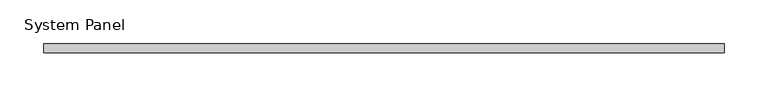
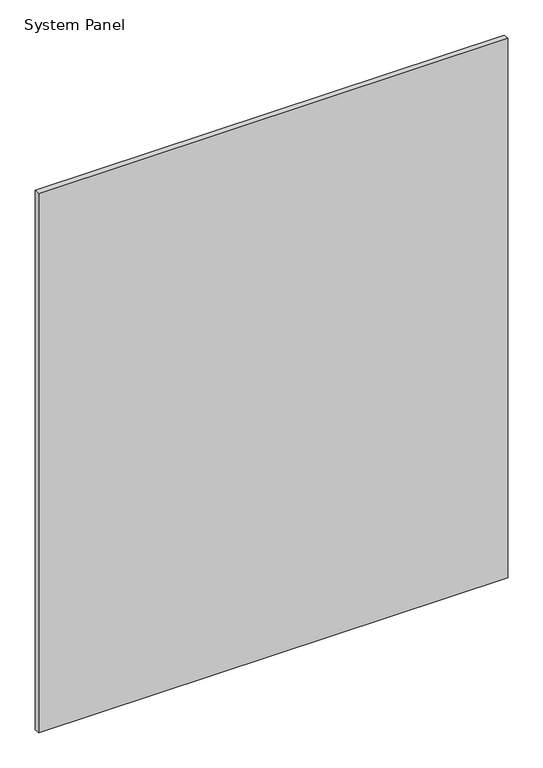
"""IFC4 building model written with IfcOpenShell, lengths in millimetres: plate geometry, System Panel : MALLA ACMA."""

import ifcopenshell
import ifcopenshell.guid

model = None  # the IFC model being written
_history = None  # IfcOwnerHistory: only IFC2X3 demands one
_inside = {}  # id of a spatial element -> (the spatial element, [elements in it])
_under = {}  # id of a project, library or spatial element -> (it, [spatial elements below it])
_declared = {}  # id of a project -> (the project, [libraries it declares])
_typed = {}  # id of a type object -> (the type object, [elements of that type])
_made_of = {}  # id of a material, layer set ... -> (it, [elements and type objects made of it])


def new_model(schema):
    """Start an empty IFC model of exactly this schema.

    Asked for "IFC4X3", IfcOpenShell would pick the latest addendum, in which some entities
    have other attributes; the version numbers below select the first issue.
    IFC2X3 requires an IfcOwnerHistory on every rooted entity: one is made here for all.
    """
    global model, _history
    if schema == "IFC4X3":
        model = ifcopenshell.file(schema_version=(4, 3, 0, 0))
    else:
        model = ifcopenshell.file(schema=schema)
    _inside.clear()
    _under.clear()
    _declared.clear()
    _typed.clear()
    _made_of.clear()
    _history = None
    if model.schema == "IFC2X3":
        org = make("IfcOrganization", Name="unknown")
        user = make(
            "IfcPersonAndOrganization",
            ThePerson=make("IfcPerson", FamilyName="unknown"),
            TheOrganization=org,
        )
        app = make(
            "IfcApplication",
            ApplicationDeveloper=org,
            Version="unknown",
            ApplicationFullName="unknown",
            ApplicationIdentifier="unknown",
        )
        _history = make(
            "IfcOwnerHistory",
            OwningUser=user,
            OwningApplication=app,
            ChangeAction="ADDED",
            CreationDate=0,
        )
    return model


def make(cls, **values):
    """One entity of the class cls with the attributes given. An attribute that is None is left unset."""
    return model.create_entity(
        cls, **{name: value for name, value in values.items() if value is not None}
    )


def rooted(cls, **values):
    """An entity with a GlobalId (a new one), such as an element, a storey or a relation."""
    return make(cls, GlobalId=ifcopenshell.guid.new(), OwnerHistory=_history, **values)


def si_unit(unit_type, name, prefix=None):
    """IfcSIUnit, for example si_unit("LENGTHUNIT", "METRE", prefix="MILLI")."""
    return make("IfcSIUnit", UnitType=unit_type, Prefix=prefix, Name=name)


def assignment(units):
    """IfcUnitAssignment: the units of a project."""
    return None if units is None else make("IfcUnitAssignment", Units=units)


def point(xyz):
    """IfcCartesianPoint."""
    return None if xyz is None else make("IfcCartesianPoint", Coordinates=xyz)


def direction(xyz):
    """IfcDirection."""
    return None if xyz is None else make("IfcDirection", DirectionRatios=xyz)


def frame(location, z_axis=None, x_axis=None):
    """IfcAxis2Placement3D, a coordinate frame: its origin and axes. An axis left out is left unset."""
    return make(
        "IfcAxis2Placement3D",
        Location=point(location),
        Axis=direction(z_axis),
        RefDirection=direction(x_axis),
    )


def origin():
    """The frame at (0, 0, 0) with its axes left unset."""
    return frame((0.0, 0.0, 0.0))


def origin_with_axes():
    """The frame at (0, 0, 0) with the z axis (0, 0, 1) and the x axis (1, 0, 0) written out."""
    return frame((0.0, 0.0, 0.0), z_axis=(0.0, 0.0, 1.0), x_axis=(1.0, 0.0, 0.0))


def place(relative_to, where):
    """IfcLocalPlacement: puts the frame where relative to a parent placement (None: the world)."""
    return make(
        "IfcLocalPlacement", PlacementRelTo=relative_to, RelativePlacement=where
    )


def context(
    kind, dimensions, precision=None, world=None, true_north=None, identifier=None
):
    """IfcGeometricRepresentationContext, for example the 3D "Model" context."""
    return make(
        "IfcGeometricRepresentationContext",
        ContextIdentifier=identifier,
        ContextType=kind,
        CoordinateSpaceDimension=dimensions,
        Precision=precision,
        WorldCoordinateSystem=world,
        TrueNorth=true_north,
    )


def project(units=None, contexts=None):
    """IfcProject with its units and contexts."""
    return rooted(
        "IfcProject",
        Name="project",
        RepresentationContexts=contexts,
        UnitsInContext=assignment(units),
    )


def spatial(cls, under=None, at=None, **own):
    """A site, building, storey or space (cls), placed at a placement, below another one or the project."""
    s = rooted(cls, ObjectPlacement=at, **own)
    if under is not None:
        _under.setdefault(under.id(), (under, []))[1].append(s)
    return s


def polyline(points):
    """IfcPolyline through the points."""
    return make("IfcPolyline", Points=[point(p) for p in points])


def outline(outer, holes=None, kind="AREA"):
    """IfcArbitraryClosedProfileDef: a profile drawn as a closed curve; with holes, ...WithVoids."""
    if holes is None:
        return make("IfcArbitraryClosedProfileDef", ProfileType=kind, OuterCurve=outer)
    return make(
        "IfcArbitraryProfileDefWithVoids",
        ProfileType=kind,
        OuterCurve=outer,
        InnerCurves=holes,
    )


def extrude(swept, where, along, depth):
    """IfcExtrudedAreaSolid: the profile swept, set in the frame where, extruded along a direction by depth."""
    return make(
        "IfcExtrudedAreaSolid",
        SweptArea=swept,
        Position=where,
        ExtrudedDirection=direction(along),
        Depth=depth,
    )


def shape(context_of_items, identifier, shape_type, items):
    """IfcShapeRepresentation: the items that make up one representation, for example the "Body"."""
    return make(
        "IfcShapeRepresentation",
        ContextOfItems=context_of_items,
        RepresentationIdentifier=identifier,
        RepresentationType=shape_type,
        Items=items,
    )


def source(mapping_origin, context_of_items, identifier, shape_type, items):
    """IfcRepresentationMap: a shape defined once, which mapped items show again and again."""
    return make(
        "IfcRepresentationMap",
        MappingOrigin=mapping_origin,
        MappedRepresentation=shape(context_of_items, identifier, shape_type, items),
    )


def transform(
    local_origin,
    x_axis=None,
    y_axis=None,
    z_axis=None,
    scale=None,
    scale2=None,
    scale3=None,
    uniform=True,
):
    """IfcCartesianTransformationOperator3D, or its non-uniform kind. x_axis, y_axis, z_axis: its Axis1, 2, 3."""
    if uniform:
        return make(
            "IfcCartesianTransformationOperator3D",
            Axis1=direction(x_axis),
            Axis2=direction(y_axis),
            LocalOrigin=point(local_origin),
            Scale=scale,
            Axis3=direction(z_axis),
        )
    return make(
        "IfcCartesianTransformationOperator3DnonUniform",
        Axis1=direction(x_axis),
        Axis2=direction(y_axis),
        LocalOrigin=point(local_origin),
        Scale=scale,
        Axis3=direction(z_axis),
        Scale2=scale2,
        Scale3=scale3,
    )


def mapped(mapping_source, mapping_target):
    """IfcMappedItem: shows the shape of a source again, moved by a transform."""
    return make(
        "IfcMappedItem", MappingSource=mapping_source, MappingTarget=mapping_target
    )


def made_of(thing, what):
    """Note that an element or type object is made of a material, layer set ...; save() writes the relation."""
    if what is not None:
        _made_of.setdefault(what.id(), (what, []))[1].append(thing)
    return thing


def element(
    cls,
    number,
    at=None,
    inside=None,
    cuts=None,
    type_object=None,
    material=None,
    context=None,
    identifier="Body",
    shape_type=None,
    held_by="IfcProductDefinitionShape",
    body=None,
    shapes=None,
    **own,
):
    """One element of the class cls, such as IfcWall. Its Tag is "e" and its number.

    at: its placement. inside: the storey or other place that contains it. cuts: it is an
    opening in that element (IfcRelVoidsElement). A single representation is given by context,
    identifier, shape_type and body (its items); several are given by shapes. held_by: the class
    of the entity that holds the representations. save() writes the other relations.
    """
    e = rooted(cls, Tag="e%d" % number, ObjectPlacement=at, **own)
    if body is not None:
        shapes = [shape(context, identifier, shape_type, body)]
    if shapes is not None:
        e.Representation = make(held_by, Representations=shapes)
    if inside is not None:
        _inside.setdefault(inside.id(), (inside, []))[1].append(e)
    if cuts is not None:
        rooted(
            "IfcRelVoidsElement", RelatingBuildingElement=cuts, RelatedOpeningElement=e
        )
    if type_object is not None:
        _typed.setdefault(type_object.id(), (type_object, []))[1].append(e)
    return made_of(e, material)


def aggregate(whole, parts):
    """IfcRelAggregates: a whole, such as a stair, and the parts it consists of."""
    return rooted("IfcRelAggregates", RelatingObject=whole, RelatedObjects=parts)


def save(model, path):
    """Write the relations noted so far, then the file.

    IfcRelAggregates (storeys below a building ...), IfcRelContainedInSpatialStructure (elements
    in a storey), IfcRelDefinesByType, IfcRelAssociatesMaterial and IfcRelDeclares: one each for
    every whole, place, type object, material and project.
    """
    for whole, parts in _under.values():
        aggregate(whole, parts)
    for where, things in _inside.values():
        rooted(
            "IfcRelContainedInSpatialStructure",
            RelatedElements=things,
            RelatingStructure=where,
        )
    for kind, things in _typed.values():
        rooted("IfcRelDefinesByType", RelatedObjects=things, RelatingType=kind)
    for what, things in _made_of.values():
        rooted("IfcRelAssociatesMaterial", RelatedObjects=things, RelatingMaterial=what)
    for by, libraries in _declared.values():
        rooted("IfcRelDeclares", RelatingContext=by, RelatedDefinitions=libraries)
    model.write(path)


def system_panel_b523d4b8(model_context):
    return source(origin(), model_context, "Body", "SweptSolid", [
        extrude(outline(polyline([(386.7686228, -5.0), (-386.7686228, -5.0), (-386.7686228, 5.0), (386.7686228, 5.0), (386.7686228, -5.0)])), origin_with_axes(), (0.0, 0.0, 1.0), 940.0),
    ])


if __name__ == "__main__":
    model = new_model("IFC4")
    model_context = context("Model", 3, world=origin())
    ifc_project = project(units=[si_unit("LENGTHUNIT", "METRE", prefix="MILLI")], contexts=[model_context])
    site = spatial("IfcSite", under=ifc_project)
    building = spatial("IfcBuilding", under=site)
    placement = place(None, origin())
    system_panel_shape = system_panel_b523d4b8(model_context)
    element("IfcPlate", 1, ObjectType="System Panel : MALLA ACMA", at=placement, inside=building, context=model_context, shape_type="MappedRepresentation", body=[
        mapped(system_panel_shape, transform((0.0, 0.0, 0.0), x_axis=(1.0, 0.0, 0.0), y_axis=(0.0, 1.0, 0.0), z_axis=(0.0, 0.0, 1.0))),
    ])
    save(model, "model.ifc")
